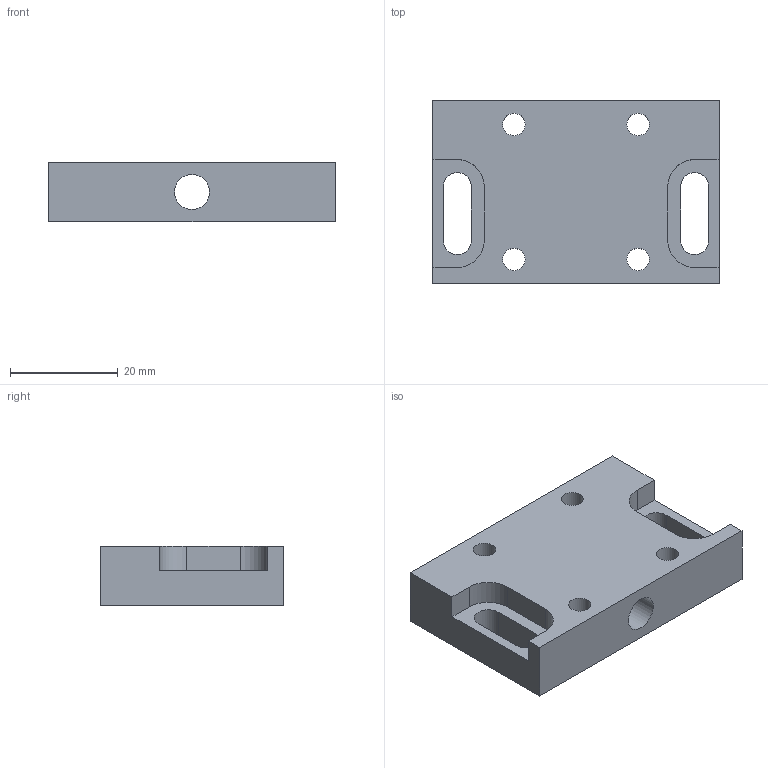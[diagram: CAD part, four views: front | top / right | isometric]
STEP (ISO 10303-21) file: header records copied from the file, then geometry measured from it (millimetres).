
FILE_DESCRIPTION(('STEP AP203'), '1');
FILE_NAME('ÒÏÏÔ1801.01.12.06.001 - Íàòÿæèòåëü', '', ('UNSPECIFIED'), ('UNSPECIFIED'), 'C3D Converter', 'C3D Toolkit', '');
FILE_SCHEMA(('CONFIG_CONTROL_DESIGN'));
Length unit declared in the file: millimetre
Products named in the file (1): ТППФ1801.01.12.06.001
Bounding box: 53 x 34 x 11 mm (x, y, z)
Volume: 15507.5 mm3; surface area: 6896.6 mm2
Topology: 1 solids, 1 shells, 35 faces, 95 edges, 62 vertices
Faces by surface type: plane 18, cylinder 13, cone 4
Full cylindrical faces by diameter (mm): 4.134 x4, 6.5 x1
Entity records: 1410 total; most frequent: DIRECTION 188, CARTESIAN_POINT 184, ORIENTED_EDGE 172, EDGE_CURVE 86, AXIS2_PLACEMENT_3D 66, VERTEX_POINT 62, EDGE_LOOP 58, LINE 56
